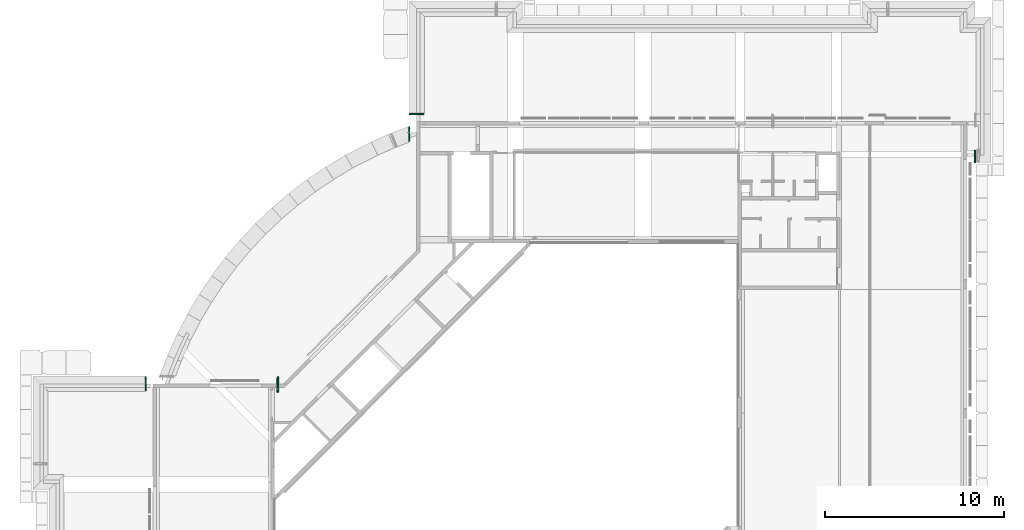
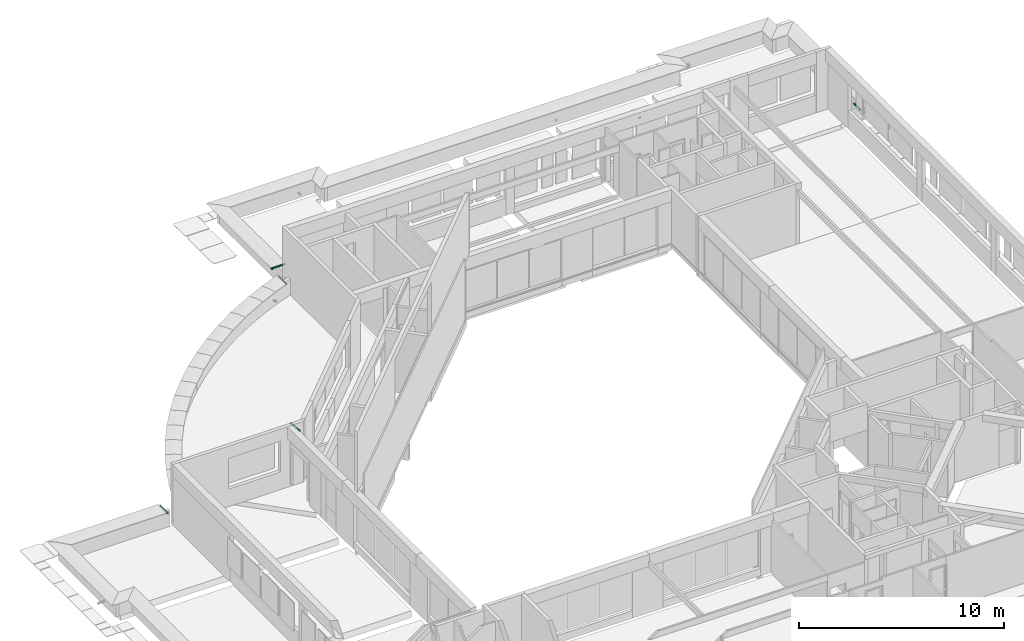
# One storey, part 37 of 38: 5 pipe fittings.
"""IFC4X3_ADD2 building model written with IfcOpenShell, lengths in millimetres."""

from ifc_helpers import new_model, si_unit, direction, frame, origin_with_axes, place, context, subcontext, project, spatial, polygons, source, transform, mapped, material, element, save


model = new_model("IFC4X3_ADD2")

# Units and contexts
model_context = context("Model", 3, precision=1e-05, world=origin_with_axes(), true_north=direction((0.0, 1.0)))
body_context = subcontext(model_context, "Body", "Model", "MODEL_VIEW")
ifc_project = project(units=[si_unit("LENGTHUNIT", "METRE", prefix="MILLI"), si_unit("AREAUNIT", "SQUARE_METRE"), si_unit("VOLUMEUNIT", "CUBIC_METRE"), si_unit("PLANEANGLEUNIT", "RADIAN"), si_unit("TIMEUNIT", "SECOND"), si_unit("MASSUNIT", "GRAM")], contexts=[model_context])

# Site, building, storey
site_placement = place(None, origin_with_axes())
site = spatial("IfcSite", under=ifc_project, at=site_placement, Name="Site", CompositionType="ELEMENT")
building_placement = place(site_placement, origin_with_axes())
building = spatial("IfcBuilding", under=site, at=building_placement, Name="IFC Building Story")
storey_placement = place(building_placement, frame((0.0, 0.0, 10800.0), z_axis=(0.0, 0.0, 1.0), x_axis=(1.0, 0.0, 0.0)))
storey = spatial("IfcBuildingStorey", under=building, at=storey_placement, Name="030", Elevation=10800.0)

# Pipe fittings
ifc_material = material(Name="<Unnamed>")
shared_shape_1 = source(origin_with_axes(), body_context, "Body", "Tessellation", [
    polygons([(0.0, 77.999999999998, 111.999999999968), (0.0, 77.999999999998, 0.0), (18.0000000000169, 77.999999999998, 0.0), (18.0000000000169, 77.999999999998, 39.9999999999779), (18.0000000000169, 77.999999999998, 111.999999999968), (0.0, 79.9999999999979, 111.999999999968), (0.0, 79.9999999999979, 0.0), (108.0, 79.9999999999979, 0.0), (108.0, 79.9999999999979, 111.999999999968), (108.0, 77.999999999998, 111.999999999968), (108.0, 77.999999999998, 0.0), (90.0000000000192, 79.9999999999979, 111.999999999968), (90.0000000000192, 77.999999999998, 111.999999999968), (90.0000000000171, 79.9999999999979, 39.9999999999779), (90.0000000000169, 77.999999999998, 39.9999999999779), (18.0000000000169, 79.9999999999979, 111.999999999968), (18.0000000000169, 79.9999999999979, 39.9999999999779), (90.0000000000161, 39.999999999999, 0.0), (18.0000000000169, 39.999999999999, 0.0), (20.0000000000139, 79.9999999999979, 0.0), (20.0000000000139, 41.999999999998, 0.0), (88.0000000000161, 41.999999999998, 0.0), (88.0000000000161, 79.9999999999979, 0.0), (90.0000000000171, 77.999999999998, 0.0), (18.0000000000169, 39.999999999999, 39.9999999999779), (90.0000000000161, 39.999999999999, 39.9999999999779), (88.0000000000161, 79.9999999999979, 39.9999999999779), (88.0000000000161, 41.999999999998, 39.9999999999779), (20.0000000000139, 41.999999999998, 39.9999999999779), (20.0000000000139, 79.9999999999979, 39.9999999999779)], [[[4, 5, 1]], [[4, 1, 2]], [[2, 3, 4]], [[6, 7, 2, 1]], [[8, 9, 10, 11]], [[9, 12, 13, 10]], [[13, 12, 14, 15]], [[16, 5, 4, 17]], [[16, 6, 1, 5]], [[3, 2, 7]], [[3, 7, 20]], [[24, 18, 22]], [[24, 22, 23]], [[23, 8, 11]], [[23, 11, 24]], [[18, 19, 21]], [[18, 21, 22]], [[19, 3, 20]], [[19, 20, 21]], [[15, 14, 27]], [[4, 25, 29]], [[4, 29, 30]], [[30, 17, 4]], [[25, 26, 28]], [[25, 28, 29]], [[26, 15, 27]], [[26, 27, 28]], [[26, 18, 24, 15]], [[19, 18, 26, 25]], [[19, 25, 4, 3]], [[17, 30, 20]], [[17, 20, 7]], [[7, 6, 16]], [[7, 16, 17]], [[22, 28, 27, 23]], [[29, 21, 20, 30]], [[28, 22, 21, 29]], [[14, 12, 9]], [[14, 9, 8]], [[8, 23, 14]], [[23, 27, 14]], [[15, 24, 11]], [[11, 10, 13]], [[11, 13, 15]]]),
    polygons([(18.0000000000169, 0.0, 39.9999999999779), (90.0000000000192, 0.0, 39.9999999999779), (90.0000000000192, 0.0, 111.999999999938), (88.000000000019, 0.0, 111.999999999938), (88.000000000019, 0.0, 41.999999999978), (20.0000000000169, 0.0, 41.999999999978), (20.0000000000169, 0.0, 111.999999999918), (18.0000000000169, 0.0, 111.999999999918), (18.0000000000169, 700.0, 39.9999999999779), (18.0000000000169, 700.0, 111.999999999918), (20.0000000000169, 700.0, 111.999999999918), (20.0000000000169, 700.0, 41.999999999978), (88.000000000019, 700.0, 41.999999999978), (88.000000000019, 700.0, 111.999999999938), (90.0000000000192, 700.0, 111.999999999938), (90.0000000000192, 700.0, 39.9999999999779)], [[[6, 7, 8]], [[6, 8, 1]], [[1, 2, 5]], [[1, 5, 6]], [[2, 3, 4]], [[2, 4, 5]], [[13, 14, 15]], [[13, 15, 16]], [[16, 9, 12]], [[16, 12, 13]], [[9, 10, 11]], [[9, 11, 12]], [[2, 1, 9, 16]], [[3, 2, 16, 15]], [[4, 3, 15, 14]], [[5, 4, 14, 13]], [[6, 5, 13, 12]], [[7, 6, 12, 11]], [[1, 8, 10, 9]], [[8, 7, 11, 10]]]),
])
pipe_fitting_1_placement = place(storey_placement, frame((476.859371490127, 43073.7396111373, 698.0), z_axis=(0.0, 0.0, 1.0), x_axis=(1.0, 0.0, 0.0)))
element("IfcPipeFitting", 1, at=pipe_fitting_1_placement, inside=storey, material=ifc_material, Name="Spuwer 70 x 70 RVS:Type 1", ObjectType="Spuwer 70 x 70 RVS:Type 1", PredefinedType="EXIT", context=body_context, shape_type="MappedRepresentation", body=[
    mapped(shared_shape_1, transform((0.0, 0.0, 0.0))),
])
shared_shape_2 = source(origin_with_axes(), body_context, "Body", "Tessellation", [
    polygons([(2.5952722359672, 80.2423912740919, 117.667377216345), (2.5952722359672, 80.2423912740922, 3.72235575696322e-11), (20.5952722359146, 80.2423912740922, 7.47178319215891e-11), (20.5952722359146, 80.2423912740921, 41.0150039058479), (20.5952722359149, 80.2423912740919, 117.667377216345), (2.5952722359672, 82.2423912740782, 117.667377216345), (2.5952722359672, 82.2423912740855, 7.45824735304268e-11), (110.595272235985, 82.2423912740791, 2.16573425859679e-12), (110.595272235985, 82.2423912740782, 117.667377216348), (110.595272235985, 80.2423912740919, 117.667377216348), (110.595272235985, 80.2423912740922, 2.16573425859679e-12), (92.5952722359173, 82.2423912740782, 117.667377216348), (92.5952722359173, 80.2423912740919, 117.667377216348), (92.5952722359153, 82.2423912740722, 41.0983372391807), (92.5952722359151, 80.242391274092, 41.0150039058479), (20.5952722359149, 82.2423912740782, 117.667377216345), (20.5952722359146, 82.2423912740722, 41.0983372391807), (20.5952722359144, 42.2423912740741, 1.16272858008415e-10), (20.5952722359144, 42.2423912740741, 39.4316705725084), (92.5952722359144, 42.2423912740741, 39.4316705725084), (92.5952722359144, 42.2423912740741, 1.16272858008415e-10), (92.5952722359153, 80.2423912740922, 7.53946238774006e-11), (22.5952722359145, 82.2423912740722, 41.0983372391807), (22.5952722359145, 82.2423912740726, 1.11941389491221e-10), (22.5952722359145, 44.2423912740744, 9.74580416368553e-11), (90.5952722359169, 44.2423912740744, 9.74580416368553e-11), (90.5952722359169, 82.2423912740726, 1.11941389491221e-10), (90.5952722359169, 82.2423912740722, 41.0983372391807), (90.5952722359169, 44.2423912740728, 39.5150039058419), (22.5952722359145, 44.2423912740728, 39.5150039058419)], [[[4, 5, 1]], [[4, 1, 2]], [[2, 3, 4]], [[6, 7, 2, 1]], [[8, 9, 10, 11]], [[9, 12, 13, 10]], [[13, 12, 14, 15]], [[16, 5, 4, 17]], [[16, 6, 1, 5]], [[18, 19, 4, 3]], [[20, 21, 22, 15]], [[19, 18, 21, 20]], [[17, 23, 24]], [[17, 24, 7]], [[7, 6, 16]], [[7, 16, 17]], [[3, 2, 7]], [[3, 7, 24]], [[22, 21, 26]], [[22, 26, 27]], [[27, 8, 11]], [[27, 11, 22]], [[21, 18, 25]], [[21, 25, 26]], [[18, 3, 24]], [[18, 24, 25]], [[15, 14, 28]], [[4, 19, 30]], [[4, 30, 23]], [[23, 17, 4]], [[19, 20, 29]], [[19, 29, 30]], [[20, 15, 28]], [[20, 28, 29]], [[26, 29, 28, 27]], [[30, 25, 24, 23]], [[29, 26, 25, 30]], [[14, 12, 9]], [[14, 9, 8]], [[8, 27, 14]], [[27, 28, 14]], [[15, 22, 11]], [[11, 10, 13]], [[11, 13, 15]]]),
    polygons([(3.46935179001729, 121.008650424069, 95.4580331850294), (1.59527223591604, 121.601263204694, 81.2353264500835), (3.46935179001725, 122.193875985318, 67.0126197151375), (8.96387502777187, 122.746103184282, 53.7591669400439), (17.7043992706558, 123.220311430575, 42.3781690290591), (29.0952722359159, 123.584184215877, 33.6452221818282), (42.3602247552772, 123.812924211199, 28.1554622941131), (56.5952722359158, 123.890943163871, 26.2830074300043), (70.8303197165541, 123.812924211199, 28.155462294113), (84.0952722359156, 123.584184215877, 33.6452221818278), (95.4861452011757, 123.220311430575, 42.3781690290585), (104.22666944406, 122.746103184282, 53.7591669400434), (109.721192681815, 122.193875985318, 67.0126197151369), (111.595272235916, 121.601263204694, 81.2353264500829), (109.721192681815, 121.008650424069, 95.4580331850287), (104.22666944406, 120.456423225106, 108.711485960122), (95.4861452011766, 119.982214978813, 120.092483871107), (84.0952722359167, 119.618342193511, 128.825430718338), (70.8303197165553, 119.389602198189, 134.315190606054), (56.595272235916, 119.311583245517, 136.187645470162), (42.3602247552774, 119.389602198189, 134.315190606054), (29.0952722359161, 119.618342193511, 128.825430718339), (17.704399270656, 119.982214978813, 120.092483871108), (8.96387502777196, 120.456423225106, 108.711485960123), (70.8303197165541, 873.162729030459, 59.3783708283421), (56.5952722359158, 873.240747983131, 57.5059159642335), (42.3602247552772, 873.162729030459, 59.3783708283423), (29.0952722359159, 872.933989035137, 64.8681307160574), (17.7043992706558, 872.570116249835, 73.6010775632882), (8.96387502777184, 872.095908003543, 84.9820754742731), (3.46935179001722, 871.543680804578, 98.2355282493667), (1.595272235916, 870.951068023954, 112.458234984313), (3.46935179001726, 870.35845524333, 126.680941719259), (8.96387502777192, 869.806228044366, 139.934394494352), (17.7043992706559, 869.332019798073, 151.315392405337), (29.095272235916, 868.968147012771, 160.048339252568), (42.3602247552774, 868.739407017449, 165.538099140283), (56.5952722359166, 868.661388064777, 167.410554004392), (70.8303197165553, 868.739407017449, 165.538099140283), (84.0952722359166, 868.968147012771, 160.048339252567), (95.4861452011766, 869.332019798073, 151.315392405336), (104.22666944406, 869.806228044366, 139.934394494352), (109.721192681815, 870.35845524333, 126.680941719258), (111.595272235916, 870.951068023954, 112.458234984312), (109.721192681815, 871.543680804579, 98.235528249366), (104.22666944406, 872.095908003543, 84.9820754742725), (95.4861452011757, 872.570116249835, 73.6010775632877), (84.0952722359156, 872.933989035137, 64.868130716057), (66.1762218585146, 434.407058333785, 40.0628335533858), (77.6428610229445, 498.391554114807, 46.0774579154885), (67.3252399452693, 412.693049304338, 147.354146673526), (77.6428610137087, 494.16077718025, 147.616103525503), (56.5952722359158, 641.345426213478, 47.8436108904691), (100.229705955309, 497.670034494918, 63.3939284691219), (90.0771508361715, 526.430112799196, 54.4309007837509), (107.408646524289, 468.81496605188, 74.6367127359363), (56.5952722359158, 498.565845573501, 41.8944616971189), (111.12473961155, 496.575028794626, 89.6740637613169), (100.229705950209, 523.219718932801, 131.480358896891), (107.408646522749, 495.399943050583, 117.876122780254), (111.124739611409, 467.639880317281, 102.838771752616), (56.5952722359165, 493.986485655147, 151.799099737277), (90.0771508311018, 466.122218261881, 139.262660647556), (23.1133935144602, 522.797063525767, 141.624112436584), (2.06580485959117, 495.977302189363, 104.019497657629), (5.78189794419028, 467.062520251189, 116.695396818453), (35.5476831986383, 494.160781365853, 147.616103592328), (45.8653043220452, 575.367918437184, 154.132266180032), (12.9608384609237, 494.882297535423, 130.299632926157), (45.8653045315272, 417.184418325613, 39.5612954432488), (35.5476834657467, 498.391554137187, 46.0774579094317), (12.9608385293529, 526.007456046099, 64.5746543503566), (5.78189795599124, 497.152388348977, 75.8174386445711), (2.06580486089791, 468.23760773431, 88.493337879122), (23.1133936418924, 469.755269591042, 52.0694489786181)], [[[1, 2, 3]], [[1, 3, 4]], [[1, 4, 5]], [[1, 5, 6]], [[1, 6, 7]], [[1, 7, 8]], [[1, 8, 9]], [[1, 9, 10]], [[1, 10, 11]], [[1, 11, 12]], [[1, 12, 13]], [[1, 13, 14]], [[1, 14, 15]], [[1, 15, 16]], [[1, 16, 17]], [[1, 17, 18]], [[1, 18, 19]], [[1, 19, 20]], [[1, 20, 21]], [[1, 21, 22]], [[1, 22, 23]], [[1, 23, 24]], [[25, 26, 27]], [[25, 27, 28]], [[25, 28, 29]], [[25, 29, 30]], [[25, 30, 31]], [[25, 31, 32]], [[25, 32, 33]], [[25, 33, 34]], [[25, 34, 35]], [[25, 35, 36]], [[25, 36, 37]], [[25, 37, 38]], [[25, 38, 39]], [[25, 39, 40]], [[25, 40, 41]], [[25, 41, 42]], [[25, 42, 43]], [[25, 43, 44]], [[25, 44, 45]], [[25, 45, 46]], [[25, 46, 47]], [[25, 47, 48]], [[49, 25, 50]], [[39, 51, 52]], [[25, 49, 53]], [[9, 49, 50]], [[54, 47, 46]], [[11, 55, 54]], [[47, 54, 55]], [[50, 48, 55]], [[8, 49, 9]], [[46, 45, 56]], [[53, 26, 25]], [[49, 8, 57, 53]], [[45, 58, 56]], [[25, 48, 50]], [[56, 13, 12]], [[11, 10, 55]], [[42, 41, 59]], [[55, 10, 50]], [[54, 56, 12]], [[44, 58, 45]], [[58, 14, 13]], [[11, 54, 12]], [[43, 60, 61]], [[20, 51, 62]], [[60, 43, 42]], [[62, 51, 39]], [[16, 59, 17]], [[60, 42, 59]], [[52, 40, 39]], [[60, 15, 61]], [[44, 61, 58]], [[63, 40, 52]], [[41, 40, 63]], [[62, 39, 38]], [[61, 44, 43]], [[14, 61, 15]], [[51, 20, 19]], [[14, 58, 61]], [[48, 47, 55]], [[16, 60, 59]], [[46, 56, 54]], [[63, 52, 18]], [[18, 17, 63]], [[9, 50, 10]], [[52, 51, 19]], [[18, 52, 19]], [[58, 13, 56]], [[17, 59, 63]], [[63, 59, 41]], [[15, 60, 16]], [[36, 35, 64]], [[33, 65, 66]], [[67, 37, 36]], [[68, 37, 67]], [[34, 69, 35]], [[27, 70, 71]], [[38, 68, 62]], [[36, 64, 67]], [[8, 70, 57]], [[34, 33, 66]], [[21, 67, 22]], [[21, 20, 62]], [[38, 37, 68]], [[66, 1, 24]], [[30, 29, 72]], [[22, 67, 64]], [[70, 8, 7]], [[64, 23, 22]], [[69, 66, 24]], [[3, 73, 4]], [[65, 2, 1]], [[32, 65, 33]], [[31, 73, 74]], [[23, 69, 24]], [[73, 31, 30]], [[5, 72, 75]], [[57, 70, 27]], [[73, 30, 72]], [[71, 28, 27]], [[29, 28, 75]], [[73, 3, 74]], [[75, 28, 71]], [[4, 72, 5]], [[27, 26, 53, 57]], [[74, 32, 31]], [[2, 74, 3]], [[35, 69, 64]], [[2, 65, 74]], [[62, 68, 21]], [[4, 73, 72]], [[65, 1, 66]], [[75, 71, 6]], [[6, 5, 75]], [[34, 66, 69]], [[71, 70, 7]], [[23, 64, 69]], [[32, 74, 65]], [[75, 72, 29]], [[21, 68, 67]], [[6, 71, 7]]]),
    polygons([(90.5952722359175, 120.083261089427, 117.667377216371), (22.5952722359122, 120.083261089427, 117.667377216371), (22.5952722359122, 120.000000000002, 119.665643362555), (90.5952722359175, 120.000000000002, 119.665643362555), (90.5952722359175, 40.0166903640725, 114.331270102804), (90.5952722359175, 39.9334292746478, 116.329536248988), (22.5952722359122, 39.9334292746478, 116.329536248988), (22.5952722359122, 40.0166903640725, 114.331270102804)], [[[1, 2, 3, 4]], [[5, 6, 7, 8]], [[2, 1, 5, 8]], [[4, 3, 7, 6]], [[3, 2, 8, 7]], [[1, 4, 6, 5]]]),
    polygons([(92.5952722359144, 0.0, 114.66564336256), (90.5952722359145, 0.0, 114.66564336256), (90.5952722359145, 3.11934390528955, 39.8013896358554), (22.5952722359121, 3.11934390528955, 39.8013896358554), (22.5952722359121, 0.0, 114.66564336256), (20.5952722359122, 0.0, 114.66564336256), (20.5952722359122, 3.20252640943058, 37.805009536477), (92.5952722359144, 3.20252640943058, 37.805009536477), (20.5952722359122, 123.202526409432, 42.8050095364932), (92.5952722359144, 123.202526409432, 42.8050095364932), (22.5952722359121, 123.119343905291, 44.8013896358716), (22.5952722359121, 120.0, 119.665643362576), (90.5952722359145, 123.119343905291, 44.8013896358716), (90.5952722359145, 120.0, 119.665643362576), (92.5952722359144, 120.0, 119.665643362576), (20.5952722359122, 120.0, 119.665643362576)], [[[4, 5, 6]], [[4, 6, 7]], [[7, 8, 3]], [[7, 3, 4]], [[8, 1, 2]], [[8, 2, 3]], [[9, 10, 8, 7]], [[11, 12, 5, 4]], [[13, 11, 4, 3]], [[14, 13, 3, 2]], [[13, 14, 15]], [[13, 15, 10]], [[10, 9, 11]], [[10, 11, 13]], [[9, 16, 12]], [[9, 12, 11]], [[10, 15, 1, 8]], [[16, 9, 7, 6]], [[12, 16, 6, 5]], [[15, 14, 2, 1]]]),
])
pipe_fitting_2_placement = place(storey_placement, frame((-38353.5277751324, 31128.2423912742, 3000.0), z_axis=(0.0, 0.0, 1.0), x_axis=(-1.0, 0.0, 0.0)))
element("IfcPipeFitting", 2, at=pipe_fitting_2_placement, inside=storey, Name="Afwerkstuk spuwer 70 x 70 RVS:Type 1", ObjectType="Afwerkstuk spuwer 70 x 70 RVS:Type 1", PredefinedType="EXIT", context=body_context, shape_type="MappedRepresentation", body=[
    mapped(shared_shape_2, transform((0.0, 0.0, 0.0))),
])
shared_shape_3 = source(origin_with_axes(), body_context, "Body", "Tessellation", [
    polygons([(0.0, 77.9999999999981, 111.999999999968), (0.0, 77.9999999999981, 0.0), (18.0000000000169, 77.9999999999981, 0.0), (18.0000000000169, 77.999999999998, 39.9999999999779), (18.0000000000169, 77.9999999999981, 111.999999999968), (0.0, 79.9999999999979, 111.999999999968), (0.0, 79.9999999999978, 0.0), (108.0, 79.9999999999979, 0.0), (108.0, 79.9999999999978, 111.999999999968), (108.0, 77.9999999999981, 111.999999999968), (108.0, 77.9999999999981, 0.0), (90.0000000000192, 79.9999999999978, 111.999999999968), (90.0000000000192, 77.9999999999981, 111.999999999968), (90.0000000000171, 79.9999999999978, 39.9999999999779), (90.0000000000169, 77.999999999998, 39.9999999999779), (18.0000000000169, 79.9999999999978, 111.999999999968), (18.0000000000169, 79.9999999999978, 39.9999999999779), (90.0000000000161, 39.999999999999, 0.0), (18.0000000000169, 39.999999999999, 0.0), (20.0000000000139, 79.9999999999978, 0.0), (20.0000000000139, 41.999999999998, 0.0), (88.0000000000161, 41.999999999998, 0.0), (88.0000000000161, 79.9999999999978, 0.0), (90.0000000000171, 77.9999999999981, 0.0), (18.0000000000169, 39.999999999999, 39.9999999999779), (90.0000000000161, 39.999999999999, 39.9999999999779), (88.0000000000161, 79.9999999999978, 39.9999999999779), (88.0000000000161, 41.999999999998, 39.9999999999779), (20.0000000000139, 41.999999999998, 39.9999999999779), (20.0000000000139, 79.9999999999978, 39.9999999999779)], [[[4, 5, 1]], [[4, 1, 2]], [[2, 3, 4]], [[6, 7, 2, 1]], [[8, 9, 10, 11]], [[9, 12, 13, 10]], [[13, 12, 14, 15]], [[16, 5, 4, 17]], [[16, 6, 1, 5]], [[3, 2, 7]], [[3, 7, 20]], [[24, 18, 22]], [[24, 22, 23]], [[23, 8, 11]], [[23, 11, 24]], [[18, 19, 21]], [[18, 21, 22]], [[19, 3, 20]], [[19, 20, 21]], [[15, 14, 27]], [[4, 25, 29]], [[4, 29, 30]], [[30, 17, 4]], [[25, 26, 28]], [[25, 28, 29]], [[26, 15, 27]], [[26, 27, 28]], [[26, 18, 24, 15]], [[19, 18, 26, 25]], [[19, 25, 4, 3]], [[17, 30, 20]], [[17, 20, 7]], [[7, 6, 16]], [[7, 16, 17]], [[22, 28, 27, 23]], [[29, 21, 20, 30]], [[28, 22, 21, 29]], [[14, 12, 9]], [[14, 9, 8]], [[8, 23, 14]], [[23, 27, 14]], [[15, 24, 11]], [[11, 10, 13]], [[11, 13, 15]]]),
    polygons([(18.0000000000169, 0.0, 39.9999999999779), (90.0000000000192, 0.0, 39.9999999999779), (90.0000000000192, 0.0, 111.999999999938), (88.000000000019, 0.0, 111.999999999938), (88.000000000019, 0.0, 41.999999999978), (20.0000000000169, 0.0, 41.999999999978), (20.0000000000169, 0.0, 111.999999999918), (18.0000000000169, 0.0, 111.999999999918), (18.0000000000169, 800.0, 39.9999999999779), (18.0000000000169, 800.0, 111.999999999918), (20.0000000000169, 800.0, 111.999999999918), (20.0000000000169, 800.0, 41.999999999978), (88.000000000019, 800.0, 41.999999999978), (88.000000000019, 800.0, 111.999999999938), (90.0000000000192, 800.0, 111.999999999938), (90.0000000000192, 800.0, 39.9999999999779)], [[[6, 7, 8]], [[6, 8, 1]], [[1, 2, 5]], [[1, 5, 6]], [[2, 3, 4]], [[2, 4, 5]], [[13, 14, 15]], [[13, 15, 16]], [[16, 9, 12]], [[16, 12, 13]], [[9, 10, 11]], [[9, 11, 12]], [[2, 1, 9, 16]], [[3, 2, 16, 15]], [[4, 3, 15, 14]], [[5, 4, 14, 13]], [[6, 5, 13, 12]], [[7, 6, 12, 11]], [[1, 8, 10, 9]], [[8, 7, 11, 10]]]),
])
pipe_fitting_3_placement = place(storey_placement, frame((-31060.0, 45848.0, 698.0), z_axis=(0.0, 0.0, 1.0), x_axis=(0.0, -1.0, 0.0)))
element("IfcPipeFitting", 3, at=pipe_fitting_3_placement, inside=storey, material=ifc_material, Name="Spuwer 70 x 70 RVS:Type 1", ObjectType="Spuwer 70 x 70 RVS:Type 1", PredefinedType="EXIT", context=body_context, shape_type="MappedRepresentation", body=[
    mapped(shared_shape_3, transform((0.0, 0.0, 0.0))),
])
shared_shape_4 = source(origin_with_axes(), body_context, "Body", "Tessellation", [
    polygons([(0.0, 77.9999999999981, 111.999999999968), (0.0, 77.9999999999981, 0.0), (18.0000000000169, 77.9999999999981, 0.0), (18.0000000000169, 77.9999999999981, 39.9999999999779), (18.0000000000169, 77.9999999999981, 111.999999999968), (0.0, 79.999999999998, 111.999999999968), (0.0, 79.999999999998, 0.0), (108.0, 79.999999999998, 0.0), (108.0, 79.999999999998, 111.999999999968), (108.0, 77.9999999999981, 111.999999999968), (108.0, 77.9999999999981, 0.0), (90.0000000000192, 79.999999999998, 111.999999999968), (90.0000000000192, 77.9999999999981, 111.999999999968), (90.0000000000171, 79.999999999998, 39.9999999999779), (90.0000000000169, 77.9999999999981, 39.9999999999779), (18.0000000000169, 79.999999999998, 111.999999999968), (18.0000000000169, 79.999999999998, 39.9999999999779), (90.0000000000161, 39.9999999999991, 0.0), (18.0000000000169, 39.9999999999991, 0.0), (20.0000000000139, 79.999999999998, 0.0), (20.0000000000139, 41.9999999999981, 0.0), (88.0000000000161, 41.9999999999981, 0.0), (88.0000000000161, 79.999999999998, 0.0), (90.0000000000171, 77.9999999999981, 0.0), (18.0000000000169, 39.9999999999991, 39.9999999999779), (90.0000000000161, 39.9999999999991, 39.9999999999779), (88.0000000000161, 79.999999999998, 39.9999999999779), (88.0000000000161, 41.9999999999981, 39.9999999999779), (20.0000000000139, 41.9999999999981, 39.9999999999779), (20.0000000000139, 79.999999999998, 39.9999999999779)], [[[4, 5, 1]], [[4, 1, 2]], [[2, 3, 4]], [[6, 7, 2, 1]], [[8, 9, 10, 11]], [[9, 12, 13, 10]], [[13, 12, 14, 15]], [[16, 5, 4, 17]], [[16, 6, 1, 5]], [[3, 2, 7]], [[3, 7, 20]], [[24, 18, 22]], [[24, 22, 23]], [[23, 8, 11]], [[23, 11, 24]], [[18, 19, 21]], [[18, 21, 22]], [[19, 3, 20]], [[19, 20, 21]], [[15, 14, 27]], [[4, 25, 29]], [[4, 29, 30]], [[30, 17, 4]], [[25, 26, 28]], [[25, 28, 29]], [[26, 15, 27]], [[26, 27, 28]], [[26, 18, 24, 15]], [[19, 18, 26, 25]], [[19, 25, 4, 3]], [[17, 30, 20]], [[17, 20, 7]], [[7, 6, 16]], [[7, 16, 17]], [[22, 28, 27, 23]], [[29, 21, 20, 30]], [[28, 22, 21, 29]], [[14, 12, 9]], [[14, 9, 8]], [[8, 23, 14]], [[23, 27, 14]], [[15, 24, 11]], [[11, 10, 13]], [[11, 13, 15]]]),
    polygons([(18.0000000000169, 0.0, 39.9999999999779), (90.0000000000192, 0.0, 39.9999999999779), (90.0000000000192, 0.0, 111.999999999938), (88.000000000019, 0.0, 111.999999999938), (88.000000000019, 0.0, 41.999999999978), (20.0000000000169, 0.0, 41.999999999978), (20.0000000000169, 0.0, 111.999999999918), (18.0000000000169, 0.0, 111.999999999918), (18.0000000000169, 800.0, 39.9999999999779), (18.0000000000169, 800.0, 111.999999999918), (20.0000000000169, 800.0, 111.999999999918), (20.0000000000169, 800.0, 41.999999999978), (88.000000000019, 800.0, 41.999999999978), (88.000000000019, 800.0, 111.999999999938), (90.0000000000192, 800.0, 111.999999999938), (90.0000000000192, 800.0, 39.9999999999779)], [[[6, 7, 8]], [[6, 8, 1]], [[1, 2, 5]], [[1, 5, 6]], [[2, 3, 4]], [[2, 4, 5]], [[13, 14, 15]], [[13, 15, 16]], [[16, 9, 12]], [[16, 12, 13]], [[9, 10, 11]], [[9, 11, 12]], [[2, 1, 9, 16]], [[3, 2, 16, 15]], [[4, 3, 15, 14]], [[5, 4, 14, 13]], [[6, 5, 13, 12]], [[7, 6, 12, 11]], [[1, 8, 10, 9]], [[8, 7, 11, 10]]]),
])
pipe_fitting_4_placement = place(storey_placement, frame((-31019.0749728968, 45088.5000000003, 698.0), z_axis=(0.0, 0.0, 1.0), x_axis=(-1.0, 0.0, 0.0)))
element("IfcPipeFitting", 4, at=pipe_fitting_4_placement, inside=storey, material=ifc_material, Name="Spuwer 70 x 70 RVS:Type 1", ObjectType="Spuwer 70 x 70 RVS:Type 1", PredefinedType="EXIT", context=body_context, shape_type="MappedRepresentation", body=[
    mapped(shared_shape_4, transform((0.0, 0.0, 0.0))),
])
shared_shape_5 = source(origin_with_axes(), body_context, "Body", "Tessellation", [
    polygons([(0.0, 77.9999999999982, 111.999999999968), (0.0, 77.9999999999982, 0.0), (18.0000000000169, 77.9999999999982, 0.0), (18.0000000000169, 77.9999999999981, 39.9999999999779), (18.0000000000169, 77.9999999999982, 111.999999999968), (0.0, 79.999999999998, 111.999999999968), (0.0, 79.9999999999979, 0.0), (108.0, 79.999999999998, 0.0), (108.0, 79.9999999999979, 111.999999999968), (108.0, 77.9999999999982, 111.999999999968), (108.0, 77.9999999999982, 0.0), (90.0000000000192, 79.9999999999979, 111.999999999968), (90.0000000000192, 77.9999999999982, 111.999999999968), (90.0000000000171, 79.9999999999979, 39.9999999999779), (90.0000000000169, 77.9999999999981, 39.9999999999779), (18.0000000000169, 79.9999999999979, 111.999999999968), (18.0000000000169, 79.9999999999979, 39.9999999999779), (90.0000000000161, 39.999999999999, 0.0), (18.0000000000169, 39.999999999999, 0.0), (20.0000000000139, 79.9999999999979, 0.0), (20.0000000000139, 41.999999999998, 0.0), (88.0000000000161, 41.999999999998, 0.0), (88.0000000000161, 79.9999999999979, 0.0), (90.0000000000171, 77.9999999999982, 0.0), (18.0000000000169, 39.999999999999, 39.9999999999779), (90.0000000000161, 39.999999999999, 39.9999999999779), (88.0000000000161, 79.9999999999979, 39.9999999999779), (88.0000000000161, 41.999999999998, 39.9999999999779), (20.0000000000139, 41.999999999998, 39.9999999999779), (20.0000000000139, 79.9999999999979, 39.9999999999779)], [[[4, 5, 1]], [[4, 1, 2]], [[2, 3, 4]], [[6, 7, 2, 1]], [[8, 9, 10, 11]], [[9, 12, 13, 10]], [[13, 12, 14, 15]], [[16, 5, 4, 17]], [[16, 6, 1, 5]], [[3, 2, 7]], [[3, 7, 20]], [[24, 18, 22]], [[24, 22, 23]], [[23, 8, 11]], [[23, 11, 24]], [[18, 19, 21]], [[18, 21, 22]], [[19, 3, 20]], [[19, 20, 21]], [[15, 14, 27]], [[4, 25, 29]], [[4, 29, 30]], [[30, 17, 4]], [[25, 26, 28]], [[25, 28, 29]], [[26, 15, 27]], [[26, 27, 28]], [[26, 18, 24, 15]], [[19, 18, 26, 25]], [[19, 25, 4, 3]], [[17, 30, 20]], [[17, 20, 7]], [[7, 6, 16]], [[7, 16, 17]], [[22, 28, 27, 23]], [[29, 21, 20, 30]], [[28, 22, 21, 29]], [[14, 12, 9]], [[14, 9, 8]], [[8, 23, 14]], [[23, 27, 14]], [[15, 24, 11]], [[11, 10, 13]], [[11, 13, 15]]]),
    polygons([(18.0000000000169, 0.0, 39.9999999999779), (90.0000000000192, 0.0, 39.9999999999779), (90.0000000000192, 0.0, 111.999999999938), (88.000000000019, 0.0, 111.999999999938), (88.000000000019, 0.0, 41.999999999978), (20.0000000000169, 0.0, 41.999999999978), (20.0000000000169, 0.0, 111.999999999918), (18.0000000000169, 0.0, 111.999999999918), (18.0000000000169, 800.0, 39.9999999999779), (18.0000000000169, 800.0, 111.999999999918), (20.0000000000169, 800.0, 111.999999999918), (20.0000000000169, 800.0, 41.999999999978), (88.000000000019, 800.0, 41.999999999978), (88.000000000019, 800.0, 111.999999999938), (90.0000000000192, 800.0, 111.999999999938), (90.0000000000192, 800.0, 39.9999999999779)], [[[6, 7, 8]], [[6, 8, 1]], [[1, 2, 5]], [[1, 5, 6]], [[2, 3, 4]], [[2, 4, 5]], [[13, 14, 15]], [[13, 15, 16]], [[16, 9, 12]], [[16, 12, 13]], [[9, 10, 11]], [[9, 11, 12]], [[2, 1, 9, 16]], [[3, 2, 16, 15]], [[4, 3, 15, 14]], [[5, 4, 14, 13]], [[6, 5, 13, 12]], [[7, 6, 12, 11]], [[1, 8, 10, 9]], [[8, 7, 11, 10]]]),
])
pipe_fitting_5_placement = place(storey_placement, frame((-45741.0, 31126.0, 698.0), z_axis=(0.0, 0.0, 1.0), x_axis=(-1.0, 0.0, 0.0)))
element("IfcPipeFitting", 5, at=pipe_fitting_5_placement, inside=storey, material=ifc_material, Name="Spuwer 70 x 70 RVS:Type 1", ObjectType="Spuwer 70 x 70 RVS:Type 1", PredefinedType="EXIT", context=body_context, shape_type="MappedRepresentation", body=[
    mapped(shared_shape_5, transform((0.0, 0.0, 0.0))),
])

save(model, "model.ifc")
